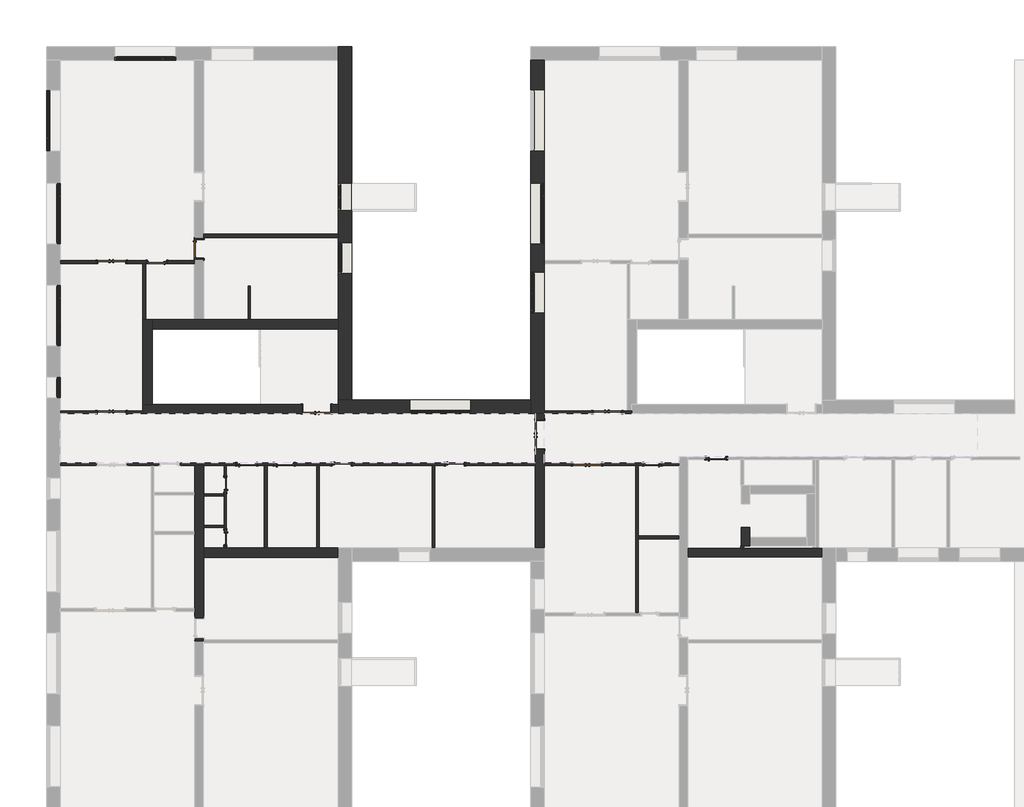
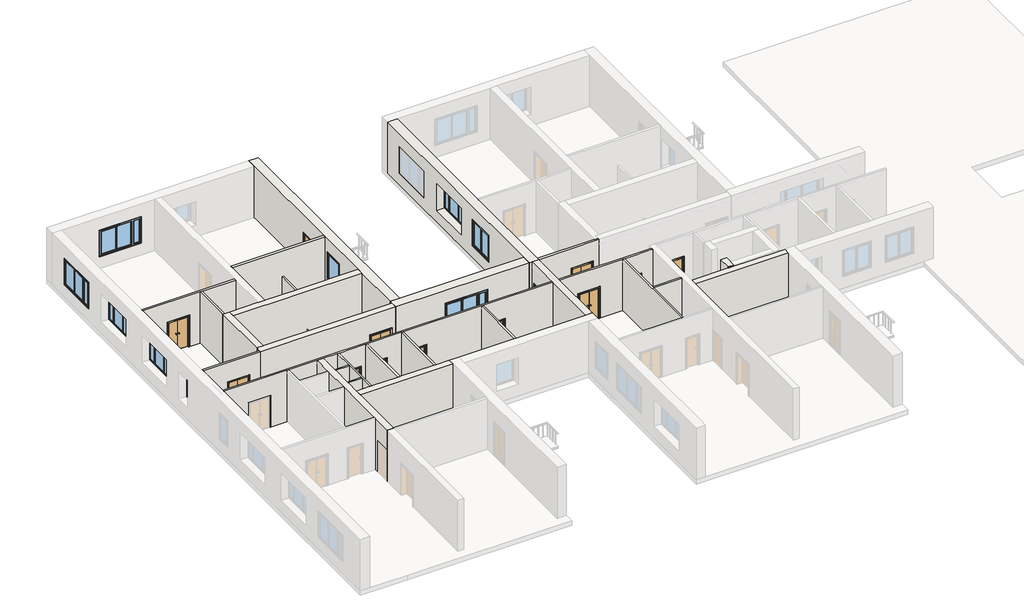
# One storey, part 2 of 4: 28 walls, 17 doors, 9 windows.
"""IFC4 building model written with IfcOpenShell, lengths in millimetres."""

from ifc_helpers import new_model, si_unit, frame, origin, place, context, project, spatial, polyline, outline, extrude, faceted_brep, transform, mapped, element, save
from components import door_6cda5d05, door_dd7598a4, door_4404b6de, door_87bbec6c, door_68770bee, door_6515f566, door_d1ce50e7, door_276684d3, door_3d735259, door_428ffb38, window_17d24cb2, window_825c4489, window_d8f3b313, window_630a9bb4

model = new_model("IFC4")

# Units and contexts
model_context = context("Model", 3, world=origin())
ifc_project = project(units=[si_unit("LENGTHUNIT", "METRE", prefix="MILLI")], contexts=[model_context])

# Site, building, storey
site = spatial("IfcSite", under=ifc_project)
building = spatial("IfcBuilding", under=site)
storey = spatial("IfcBuildingStorey", under=building, Name="2 этаж", Elevation=3500.0)

# Doors
placement = place(None, origin())
door_shape = door_6cda5d05(model_context)
element("IfcDoor", 1, ObjectType="Наружная дверь 2-Навесная - Один проем наружу с порогом - 31173-2003 : ДСН ДКН М2 2100-1300 ГОСТ 31173-2003", at=placement, inside=storey, context=model_context, shape_type="MappedRepresentation", body=[
    mapped(door_shape, transform((-35532.7240021, 6287.1370105, 3500.0), x_axis=(-1.0, 0.0, 0.0), y_axis=(0.0, -1.0, 0.0), z_axis=(0.0, 0.0, 1.0))),
])
element("IfcDoor", 2, ObjectType="Наружная дверь 2-Навесная - Один проем наружу с порогом - 31173-2003 : ДСН ДКН М2 2100-1300 ГОСТ 31173-2003", at=placement, inside=storey, context=model_context, shape_type="MappedRepresentation", body=[
    mapped(door_shape, transform((-13382.3240021, 6287.1370105, 3500.0), x_axis=(-1.0, 0.0, 0.0), y_axis=(0.0, -1.0, 0.0), z_axis=(0.0, 0.0, 1.0))),
])
element("IfcDoor", 3, ObjectType="Наружная дверь 2-Навесная - Один проем наружу с порогом - 31173-2003 : ДСН ДКН М2 2100-1300 ГОСТ 31173-2003", at=placement, inside=storey, context=model_context, shape_type="MappedRepresentation", body=[
    mapped(door_shape, transform((-14282.3240021, 3962.1370105, 3500.0), x_axis=(1.0, 0.0, 0.0), y_axis=(0.0, 1.0, 0.0), z_axis=(0.0, 0.0, 1.0))),
])
element("IfcDoor", 4, ObjectType="Наружная дверь 2-Навесная - Один проем наружу с порогом - 31173-2003 : ДСН ДКН М2 2100-1300 ГОСТ 31173-2003", at=placement, inside=storey, context=model_context, shape_type="MappedRepresentation", body=[
    mapped(door_shape, transform((-35529.8240021, 13007.1370105, 3500.0), x_axis=(-1.0, 0.0, 0.0), y_axis=(0.0, -1.0, 0.0), z_axis=(0.0, 0.0, 1.0))),
])
door_2_shape = door_dd7598a4(model_context)
element("IfcDoor", 5, ObjectType="Наружная дверь 2-Навесная - Один проем наружу с порогом - 31173-2003 : ДСН ДКН М2 2100-1300 ГОСТ 31173-2003", at=placement, inside=storey, context=model_context, shape_type="MappedRepresentation", body=[
    mapped(door_2_shape, transform((-26367.3240021, 6434.6370105, 3500.0), x_axis=(1.0, 0.0, 0.0), y_axis=(0.0, 1.0, 0.0), z_axis=(0.0, 0.0, 1.0))),
])
element("IfcDoor", 6, ObjectType="Наружная дверь 2-Навесная - Один проем наружу с порогом - 31173-2003 : ДСН ДКН М2 2100-1300 ГОСТ 31173-2003", at=placement, inside=storey, context=model_context, shape_type="MappedRepresentation", body=[
    mapped(door_2_shape, transform((-16402.3240021, 5284.6370105, 3500.0), x_axis=(0.0, -1.0, 0.0), y_axis=(1.0, 0.0, 0.0), z_axis=(0.0, 0.0, 1.0))),
])
door_3_shape = door_4404b6de(model_context)
element("IfcDoor", 7, ObjectType="Внутренняя дверь 1-Навесная - 6629-88 : ДГ 21-7  ГОСТ 6629-88", at=placement, inside=storey, context=model_context, shape_type="MappedRepresentation", body=[
    mapped(door_3_shape, transform((-30452.3240021, 674.6370105, 3500.0), x_axis=(0.0, -1.0, 0.0), y_axis=(1.0, 0.0, 0.0), z_axis=(0.0, 0.0, 1.0))),
])
door_4_shape = door_87bbec6c(model_context)
element("IfcDoor", 8, ObjectType="Внутренняя дверь 1-Навесная - 6629-88 : ДГ 21-7  ГОСТ 6629-88", at=placement, inside=storey, context=model_context, shape_type="MappedRepresentation", body=[
    mapped(door_4_shape, transform((-30452.3240021, 3054.6370105, 3500.0), x_axis=(0.0, 1.0, 0.0), y_axis=(-1.0, 0.0, 0.0), z_axis=(0.0, 0.0, 1.0))),
])
door_5_shape = door_68770bee(model_context)
element("IfcDoor", 9, ObjectType="Внутренняя дверь 1-Навесная - 6629-88 : ДГ 21-8  ГОСТ 6629-88", at=placement, inside=storey, context=model_context, shape_type="MappedRepresentation", body=[
    mapped(door_5_shape, transform((-11354.8240021, 3962.1370105, 3500.0), x_axis=(-1.0, 0.0, 0.0), y_axis=(0.0, -1.0, 0.0), z_axis=(0.0, 0.0, 1.0))),
])
door_6_shape = door_6515f566(model_context)
element("IfcDoor", 10, ObjectType="Внутренняя дверь 1-Навесная - 6629-88 : ДГ 21-9Л  ГОСТ 6629-88", at=placement, inside=storey, context=model_context, shape_type="MappedRepresentation", body=[
    mapped(door_6_shape, transform((-8511.8240021, 4232.1370105, 3500.0), x_axis=(-1.0, 0.0, 0.0), y_axis=(0.0, -1.0, 0.0), z_axis=(0.0, 0.0, 1.0))),
])
element("IfcDoor", 11, ObjectType="Внутренняя дверь 1-Навесная - 6629-88 : ДГ 21-9Л  ГОСТ 6629-88", at=placement, inside=storey, context=model_context, shape_type="MappedRepresentation", body=[
    mapped(door_6_shape, transform((-27819.8240021, 3962.1370105, 3500.0), x_axis=(-1.0, 0.0, 0.0), y_axis=(0.0, -1.0, 0.0), z_axis=(0.0, 0.0, 1.0))),
])
element("IfcDoor", 12, ObjectType="Внутренняя дверь 1-Навесная - 6629-88 : ДГ 21-9Л  ГОСТ 6629-88", at=placement, inside=storey, context=model_context, shape_type="MappedRepresentation", body=[
    mapped(door_6_shape, transform((-29499.8240021, 3962.1370105, 3500.0), x_axis=(-1.0, 0.0, 0.0), y_axis=(0.0, -1.0, 0.0), z_axis=(0.0, 0.0, 1.0))),
])
door_7_shape = door_d1ce50e7(model_context)
element("IfcDoor", 13, ObjectType="Внутренняя дверь 1-Навесная - 6629-88 : ДГ 21-9Л  ГОСТ 6629-88", at=placement, inside=storey, context=model_context, shape_type="MappedRepresentation", body=[
    mapped(door_7_shape, transform((-20189.8240021, 3962.1370105, 3500.0), x_axis=(-1.0, 0.0, 0.0), y_axis=(0.0, -1.0, 0.0), z_axis=(0.0, 0.0, 1.0))),
])
element("IfcDoor", 14, ObjectType="Внутренняя дверь 1-Навесная - 6629-88 : ДГ 21-9Л  ГОСТ 6629-88", at=placement, inside=storey, context=model_context, shape_type="MappedRepresentation", body=[
    mapped(door_7_shape, transform((-25254.8240021, 3962.1370105, 3500.0), x_axis=(-1.0, 0.0, 0.0), y_axis=(0.0, -1.0, 0.0), z_axis=(0.0, 0.0, 1.0))),
])
door_8_shape = door_276684d3(model_context)
element("IfcDoor", 15, ObjectType="Внутренняя дверь 1-Навесная - 6629-88 : ДГ 21-9  ГОСТ 6629-88", at=placement, inside=storey, context=model_context, shape_type="MappedRepresentation", body=[
    mapped(door_8_shape, transform((-33509.8240021, 13007.1370105, 3500.0), x_axis=(-1.0, 0.0, 0.0), y_axis=(0.0, -1.0, 0.0), z_axis=(0.0, 0.0, 1.0))),
])
door_9_shape = door_3d735259(model_context)
element("IfcDoor", 16, ObjectType="Внутренняя дверь 1-Навесная - 6629-88 : ДГ 21-9  ГОСТ 6629-88", at=placement, inside=storey, context=model_context, shape_type="MappedRepresentation", body=[
    mapped(door_9_shape, transform((-31622.3240021, 13592.1370105, 3500.0), x_axis=(0.0, -1.0, 0.0), y_axis=(1.0, 0.0, 0.0), z_axis=(0.0, 0.0, 1.0))),
])
door_10_shape = door_428ffb38(model_context)
element("IfcDoor", 17, ObjectType="Балконная дверь 2-Распашная - Сдвоенные переплеты с остеклением - 11214-2003 : БД СП Д1 2175-1174-94 ГОСТ 11214-2003", at=placement, inside=storey, context=model_context, shape_type="MappedRepresentation", body=[
    mapped(door_10_shape, transform((-25107.3240021, 15917.1370105, 3500.0), x_axis=(0.0, 1.0, 0.0), y_axis=(-1.0, 0.0, 0.0), z_axis=(0.0, 0.0, 1.0))),
])

# Walls
element("IfcWall", 18, ObjectType="ADSK_Внутренняя_Кирпич_610", at=placement, inside=storey, context=model_context, shape_type="Brep", body=[
    faceted_brep([(-24802.3240021, 6834.6370105, 3500.0), (-24802.3240021, 22644.6370105, 3500.0), (-24802.3240021, 22644.6370105, 7000.0), (-24802.3240021, 6834.6370105, 7000.0), (-24802.3240021, 12497.1370105, 4300.0), (-24802.3240021, 12497.1370105, 6120.0), (-24802.3240021, 13877.1370105, 6120.0), (-24802.3240021, 13877.1370105, 4300.0), (-24802.3240021, 15300.1370105, 3600.0), (-24802.3240021, 15300.1370105, 5835.0), (-24802.3240021, 16534.1370105, 5835.0), (-24802.3240021, 16534.1370105, 3600.0), (-25412.3240021, 6834.6370105, 3500.0), (-25412.3240021, 6834.6370105, 7000.0), (-25412.3240021, 10004.6370105, 7000.0), (-25412.3240021, 10424.6370105, 7000.0), (-25412.3240021, 14104.6370105, 7000.0), (-25412.3240021, 14249.6370105, 7000.0), (-25412.3240021, 22034.6370105, 7000.0), (-25412.3240021, 22644.6370105, 7000.0), (-25412.3240021, 22644.6370105, 3500.0), (-25412.3240021, 22034.6370105, 3500.0), (-25412.3240021, 14249.6370105, 3500.0), (-25412.3240021, 14104.6370105, 3500.0), (-25412.3240021, 10424.6370105, 3500.0), (-25412.3240021, 10004.6370105, 3500.0), (-25412.3240021, 12497.1370105, 4300.0), (-25412.3240021, 13877.1370105, 4300.0), (-25412.3240021, 13877.1370105, 6120.0), (-25412.3240021, 12497.1370105, 6120.0), (-25412.3240021, 15300.1370105, 3600.0), (-25412.3240021, 16534.1370105, 3600.0), (-25412.3240021, 16534.1370105, 5835.0), (-25412.3240021, 15300.1370105, 5835.0)], [[[0, 1, 2, 3], [4, 5, 6, 7], [8, 9, 10, 11]], [[12, 13, 14, 15, 16, 17, 18, 19, 20, 21, 22, 23, 24, 25], [26, 27, 28, 29], [30, 31, 32, 33]], [[1, 0, 12, 25, 24, 23, 22, 21, 20]], [[2, 1, 20, 19]], [[0, 3, 13, 12]], [[5, 4, 26, 29]], [[6, 5, 29, 28]], [[7, 6, 28, 27]], [[4, 7, 27, 26]], [[9, 8, 30, 33]], [[10, 9, 33, 32]], [[11, 10, 32, 31]], [[8, 11, 31, 30]], [[3, 2, 19, 18, 17, 16, 15, 14, 13]]]),
])
element("IfcWall", 19, ObjectType="ADSK_Внутренняя_Кирпич_610", at=placement, inside=storey, context=model_context, shape_type="Brep", body=[
    faceted_brep([(-16802.3240021, 22034.6370105, 3500.0), (-16802.3240021, 6834.6370105, 3500.0), (-16802.3240021, 6224.6370105, 3500.0), (-16802.3240021, 6224.6370105, 7000.0), (-16802.3240021, 6834.6370105, 7000.0), (-16802.3240021, 22034.6370105, 7000.0), (-16802.3240021, 16537.1370105, 4300.0), (-16802.3240021, 16537.1370105, 6120.0), (-16802.3240021, 13807.1370105, 6120.0), (-16802.3240021, 13807.1370105, 4300.0), (-16802.3240021, 17974.6370105, 4300.0), (-16802.3240021, 20704.6370105, 4300.0), (-16802.3240021, 20704.6370105, 6120.0), (-16802.3240021, 17974.6370105, 6120.0), (-16802.3240021, 10727.1370105, 4300.0), (-16802.3240021, 12557.1370105, 4300.0), (-16802.3240021, 12557.1370105, 6120.0), (-16802.3240021, 10727.1370105, 6120.0), (-16192.3240021, 22034.6370105, 3500.0), (-16192.3240021, 22034.6370105, 7000.0), (-16192.3240021, 13069.6370105, 7000.0), (-16192.3240021, 12944.6370105, 7000.0), (-16192.3240021, 6349.6370105, 7000.0), (-16192.3240021, 6224.6370105, 7000.0), (-16192.3240021, 6224.6370105, 3500.0), (-16192.3240021, 6349.6370105, 3500.0), (-16192.3240021, 12944.6370105, 3500.0), (-16192.3240021, 13069.6370105, 3500.0), (-16192.3240021, 16537.1370105, 4300.0), (-16192.3240021, 13807.1370105, 4300.0), (-16192.3240021, 13807.1370105, 6120.0), (-16192.3240021, 16537.1370105, 6120.0), (-16192.3240021, 17974.6370105, 4300.0), (-16192.3240021, 17974.6370105, 6120.0), (-16192.3240021, 20704.6370105, 6120.0), (-16192.3240021, 20704.6370105, 4300.0), (-16192.3240021, 10727.1370105, 4300.0), (-16192.3240021, 10727.1370105, 6120.0), (-16192.3240021, 12557.1370105, 6120.0), (-16192.3240021, 12557.1370105, 4300.0), (-16612.3240021, 6224.6370105, 3500.0), (-16612.3240021, 6224.6370105, 7000.0)], [[[0, 1, 2, 3, 4, 5], [6, 7, 8, 9], [10, 11, 12, 13], [14, 15, 16, 17]], [[18, 19, 20, 21, 22, 23, 24, 25, 26, 27], [28, 29, 30, 31], [32, 33, 34, 35], [36, 37, 38, 39]], [[2, 1, 0, 18, 27, 26, 25, 24, 40]], [[0, 5, 19, 18]], [[3, 2, 40, 24, 23, 41]], [[7, 6, 28, 31]], [[8, 7, 31, 30]], [[9, 8, 30, 29]], [[6, 9, 29, 28]], [[33, 32, 10, 13]], [[34, 33, 13, 12]], [[35, 34, 12, 11]], [[32, 35, 11, 10]], [[37, 36, 14, 17]], [[38, 37, 17, 16]], [[39, 38, 16, 15]], [[36, 39, 15, 14]], [[5, 4, 3, 41, 23, 22, 21, 20, 19]]]),
])
element("IfcWall", 20, ObjectType="ADSK_Внутренняя_Кирпич_610", at=placement, inside=storey, context=model_context, shape_type="Brep", body=[
    faceted_brep([(-16802.3240021, 6834.6370105, 3500.0), (-24802.3240021, 6834.6370105, 3500.0), (-25412.3240021, 6834.6370105, 3500.0), (-25412.3240021, 6834.6370105, 7000.0), (-24802.3240021, 6834.6370105, 7000.0), (-16802.3240021, 6834.6370105, 7000.0), (-19482.3240021, 6834.6370105, 4300.0), (-19482.3240021, 6834.6370105, 6120.0), (-22212.3240021, 6834.6370105, 6120.0), (-22212.3240021, 6834.6370105, 4300.0), (-16802.3240021, 6224.6370105, 3500.0), (-16802.3240021, 6224.6370105, 7000.0), (-25412.3240021, 6224.6370105, 7000.0), (-25412.3240021, 6224.6370105, 3500.0), (-19482.3240021, 6224.6370105, 4300.0), (-22212.3240021, 6224.6370105, 4300.0), (-22212.3240021, 6224.6370105, 6120.0), (-19482.3240021, 6224.6370105, 6120.0), (-25412.3240021, 6644.6370105, 3500.0), (-25412.3240021, 6644.6370105, 7000.0)], [[[0, 1, 2, 3, 4, 5], [6, 7, 8, 9]], [[10, 11, 12, 13], [14, 15, 16, 17]], [[2, 1, 0, 10, 13, 18]], [[0, 5, 11, 10]], [[3, 2, 18, 13, 12, 19]], [[7, 6, 14, 17]], [[8, 7, 17, 16]], [[9, 8, 16, 15]], [[6, 9, 15, 14]], [[5, 4, 3, 19, 12, 11]]]),
])
element("IfcWall", 21, ObjectType="ADSK_Внутренняя_Перегородка_25_75_25", at=placement, inside=storey, context=model_context, shape_type="Brep", body=[
    faceted_brep([(-37832.3240021, 4024.6370105, 3500.0), (-37832.3240021, 4024.6370105, 7000.0), (-16612.3240021, 4024.6370105, 7000.0), (-16612.3240021, 4024.6370105, 3500.0), (-19734.8240021, 4024.6370105, 3500.0), (-19734.8240021, 4024.6370105, 5570.0), (-20644.8240021, 4024.6370105, 5570.0), (-20644.8240021, 4024.6370105, 3500.0), (-24799.8240021, 4024.6370105, 3500.0), (-24799.8240021, 4024.6370105, 5570.0), (-25709.8240021, 4024.6370105, 5570.0), (-25709.8240021, 4024.6370105, 3500.0), (-27364.8240021, 4024.6370105, 3500.0), (-27364.8240021, 4024.6370105, 5570.0), (-28274.8240021, 4024.6370105, 5570.0), (-28274.8240021, 4024.6370105, 3500.0), (-29044.8240021, 4024.6370105, 3500.0), (-29044.8240021, 4024.6370105, 5570.0), (-29954.8240021, 4024.6370105, 5570.0), (-29954.8240021, 4024.6370105, 3500.0), (-32489.8240021, 4024.6370105, 3500.0), (-32489.8240021, 4024.6370105, 5570.0), (-33399.8240021, 4024.6370105, 5570.0), (-33399.8240021, 4024.6370105, 3500.0), (-34854.8240021, 4024.6370105, 3500.0), (-34854.8240021, 4024.6370105, 5620.0), (-36194.8240021, 4024.6370105, 5620.0), (-36194.8240021, 4024.6370105, 3500.0), (-37832.3240021, 3899.6370105, 7000.0), (-37832.3240021, 3899.6370105, 3500.0), (-36194.8240021, 3899.6370105, 3500.0), (-36194.8240021, 3899.6370105, 5620.0), (-34854.8240021, 3899.6370105, 5620.0), (-34854.8240021, 3899.6370105, 3500.0), (-33767.3240021, 3899.6370105, 3500.0), (-33642.3240021, 3899.6370105, 3500.0), (-33399.8240021, 3899.6370105, 3500.0), (-33399.8240021, 3899.6370105, 5570.0), (-32489.8240021, 3899.6370105, 5570.0), (-32489.8240021, 3899.6370105, 3500.0), (-31812.3240021, 3899.6370105, 3500.0), (-31412.3240021, 3899.6370105, 3500.0), (-30502.3240021, 3899.6370105, 3500.0), (-30402.3240021, 3899.6370105, 3500.0), (-29954.8240021, 3899.6370105, 3500.0), (-29954.8240021, 3899.6370105, 5570.0), (-29044.8240021, 3899.6370105, 5570.0), (-29044.8240021, 3899.6370105, 3500.0), (-28702.3240021, 3899.6370105, 3500.0), (-28577.3240021, 3899.6370105, 3500.0), (-28274.8240021, 3899.6370105, 3500.0), (-28274.8240021, 3899.6370105, 5570.0), (-27364.8240021, 3899.6370105, 5570.0), (-27364.8240021, 3899.6370105, 3500.0), (-26377.3240021, 3899.6370105, 3500.0), (-26252.3240021, 3899.6370105, 3500.0), (-25709.8240021, 3899.6370105, 3500.0), (-25709.8240021, 3899.6370105, 5570.0), (-24799.8240021, 3899.6370105, 5570.0), (-24799.8240021, 3899.6370105, 3500.0), (-21212.3240021, 3899.6370105, 3500.0), (-21087.3240021, 3899.6370105, 3500.0), (-20644.8240021, 3899.6370105, 3500.0), (-20644.8240021, 3899.6370105, 5570.0), (-19734.8240021, 3899.6370105, 5570.0), (-19734.8240021, 3899.6370105, 3500.0), (-16612.3240021, 3899.6370105, 3500.0), (-16612.3240021, 3899.6370105, 7000.0), (-21087.3240021, 3899.6370105, 7000.0), (-21212.3240021, 3899.6370105, 7000.0), (-26252.3240021, 3899.6370105, 7000.0), (-26377.3240021, 3899.6370105, 7000.0), (-28577.3240021, 3899.6370105, 7000.0), (-28702.3240021, 3899.6370105, 7000.0), (-30402.3240021, 3899.6370105, 7000.0), (-30502.3240021, 3899.6370105, 7000.0), (-31412.3240021, 3899.6370105, 7000.0), (-31812.3240021, 3899.6370105, 7000.0), (-33642.3240021, 3899.6370105, 7000.0), (-33767.3240021, 3899.6370105, 7000.0)], [[[0, 1, 2, 3, 4, 5, 6, 7, 8, 9, 10, 11, 12, 13, 14, 15, 16, 17, 18, 19, 20, 21, 22, 23, 24, 25, 26, 27]], [[28, 29, 30, 31, 32, 33, 34, 35, 36, 37, 38, 39, 40, 41, 42, 43, 44, 45, 46, 47, 48, 49, 50, 51, 52, 53, 54, 55, 56, 57, 58, 59, 60, 61, 62, 63, 64, 65, 66, 67, 68, 69, 70, 71, 72, 73, 74, 75, 76, 77, 78, 79]], [[29, 0, 27, 30]], [[3, 66, 65, 4]], [[7, 62, 61, 60, 59, 8]], [[11, 56, 55, 54, 53, 12]], [[15, 50, 49, 48, 47, 16]], [[19, 44, 43, 42, 41, 40, 39, 20]], [[23, 36, 35, 34, 33, 24]], [[1, 0, 29, 28]], [[3, 2, 67, 66]], [[6, 63, 62, 7]], [[63, 6, 5, 64]], [[64, 5, 4, 65]], [[10, 57, 56, 11]], [[57, 10, 9, 58]], [[58, 9, 8, 59]], [[14, 51, 50, 15]], [[51, 14, 13, 52]], [[52, 13, 12, 53]], [[18, 45, 44, 19]], [[45, 18, 17, 46]], [[46, 17, 16, 47]], [[38, 21, 20, 39]], [[21, 38, 37, 22]], [[22, 37, 36, 23]], [[32, 25, 24, 33]], [[25, 32, 31, 26]], [[26, 31, 30, 27]], [[2, 1, 28, 79, 78, 77, 76, 75, 74, 73, 72, 71, 70, 69, 68, 67]]]),
])
element("IfcWall", 22, ObjectType="ADSK_Внутренняя_Кирпич_380+20", at=placement, inside=storey, context=model_context, shape_type="Brep", body=[
    faceted_brep([(-31812.3240021, -3952.8629895, 3500.0), (-31812.3240021, -3952.8629895, 7000.0), (-31812.3240021, -2605.3629895, 7000.0), (-31812.3240021, -2480.3629895, 7000.0), (-31812.3240021, 824.6370105, 7000.0), (-31812.3240021, 949.6370105, 7000.0), (-31812.3240021, 2594.6370105, 7000.0), (-31812.3240021, 2694.6370105, 7000.0), (-31812.3240021, 3899.6370105, 7000.0), (-31812.3240021, 3899.6370105, 3500.0), (-31812.3240021, 2694.6370105, 3500.0), (-31812.3240021, 2594.6370105, 3500.0), (-31812.3240021, 949.6370105, 3500.0), (-31812.3240021, 824.6370105, 3500.0), (-31812.3240021, -2480.3629895, 3500.0), (-31812.3240021, -2605.3629895, 3500.0), (-31812.3240021, -2917.8629895, 3500.0), (-31812.3240021, -2917.8629895, 5570.0), (-31812.3240021, -3827.8629895, 5570.0), (-31812.3240021, -3827.8629895, 3500.0), (-31412.3240021, -3952.8629895, 7000.0), (-31412.3240021, -3952.8629895, 3500.0), (-31412.3240021, -3880.3629895, 3500.0), (-31412.3240021, -3827.8629895, 3500.0), (-31412.3240021, -3827.8629895, 5570.0), (-31412.3240021, -2917.8629895, 5570.0), (-31412.3240021, -2917.8629895, 3500.0), (-31412.3240021, -195.3629895, 3500.0), (-31412.3240021, 224.6370105, 3500.0), (-31412.3240021, 1134.6370105, 3500.0), (-31412.3240021, 1234.6370105, 3500.0), (-31412.3240021, 2544.6370105, 3500.0), (-31412.3240021, 2644.6370105, 3500.0), (-31412.3240021, 3899.6370105, 3500.0), (-31412.3240021, 3899.6370105, 7000.0), (-31412.3240021, 2644.6370105, 7000.0), (-31412.3240021, 2544.6370105, 7000.0), (-31412.3240021, 1234.6370105, 7000.0), (-31412.3240021, 1134.6370105, 7000.0), (-31412.3240021, 224.6370105, 7000.0), (-31412.3240021, -195.3629895, 7000.0), (-31412.3240021, -3880.3629895, 7000.0), (-31432.3240021, -3952.8629895, 3500.0), (-31432.3240021, -3952.8629895, 7000.0)], [[[0, 1, 2, 3, 4, 5, 6, 7, 8, 9, 10, 11, 12, 13, 14, 15, 16, 17, 18, 19]], [[20, 21, 22, 23, 24, 25, 26, 27, 28, 29, 30, 31, 32, 33, 34, 35, 36, 37, 38, 39, 40, 41]], [[21, 42, 0, 19, 23, 22]], [[9, 33, 32, 31, 30, 29, 28, 27, 26, 16, 15, 14, 13, 12, 11, 10]], [[1, 0, 42, 21, 20, 43]], [[9, 8, 34, 33]], [[25, 17, 16, 26]], [[17, 25, 24, 18]], [[18, 24, 23, 19]], [[8, 7, 6, 5, 4, 3, 2, 1, 43, 20, 41, 40, 39, 38, 37, 36, 35, 34]]]),
])
element("IfcWall", 23, ObjectType="ADSK_Внутренняя_Кирпич_380+20х2", at=placement, inside=storey, context=model_context, shape_type="Brep", body=[
    faceted_brep([(-31412.3240021, -195.3629895, 3500.0), (-25412.3240021, -195.3629895, 3500.0), (-25412.3240021, -195.3629895, 7000.0), (-31412.3240021, -195.3629895, 7000.0), (-31412.3240021, 224.6370105, 3500.0), (-31412.3240021, 224.6370105, 7000.0), (-30502.3240021, 224.6370105, 7000.0), (-30402.3240021, 224.6370105, 7000.0), (-28702.3240021, 224.6370105, 7000.0), (-28577.3240021, 224.6370105, 7000.0), (-26377.3240021, 224.6370105, 7000.0), (-26252.3240021, 224.6370105, 7000.0), (-25412.3240021, 224.6370105, 7000.0), (-25412.3240021, 224.6370105, 3500.0), (-26252.3240021, 224.6370105, 3500.0), (-26377.3240021, 224.6370105, 3500.0), (-28577.3240021, 224.6370105, 3500.0), (-28702.3240021, 224.6370105, 3500.0), (-30402.3240021, 224.6370105, 3500.0), (-30502.3240021, 224.6370105, 3500.0)], [[[0, 1, 2, 3]], [[4, 5, 6, 7, 8, 9, 10, 11, 12, 13, 14, 15, 16, 17, 18, 19]], [[1, 0, 4, 19, 18, 17, 16, 15, 14, 13]], [[2, 1, 13, 12]], [[0, 3, 5, 4]], [[3, 2, 12, 11, 10, 9, 8, 7, 6, 5]]]),
])
element("IfcWall", 24, ObjectType="ADSK_Внутренняя_Перегородка_25_75_25", at=placement, inside=storey, context=model_context, shape_type="SweptSolid", body=[
    extrude(outline(polyline([(-28577.3240021, 3899.6370105), (-28577.3240021, 224.6370105), (-28702.3240021, 224.6370105), (-28702.3240021, 3899.6370105), (-28577.3240021, 3899.6370105)])), frame((0.0, 0.0, 3500.0), z_axis=(0.0, 0.0, 1.0), x_axis=(1.0, 0.0, 0.0)), (0.0, 0.0, 1.0), 3500.0),
])
element("IfcWall", 25, ObjectType="ADSK_Внутренняя_Перегородка_25_75_25", at=placement, inside=storey, context=model_context, shape_type="SweptSolid", body=[
    extrude(outline(polyline([(-26377.3240021, 224.6370105), (-26377.3240021, 3899.6370105), (-26252.3240021, 3899.6370105), (-26252.3240021, 224.6370105), (-26377.3240021, 224.6370105)])), frame((0.0, 0.0, 3500.0), z_axis=(0.0, 0.0, 1.0), x_axis=(1.0, 0.0, 0.0)), (0.0, 0.0, 1.0), 3500.0),
])
element("IfcWall", 26, ObjectType="ADSK_Внутренняя_Перегородка_25_75_25", at=placement, inside=storey, context=model_context, shape_type="SweptSolid", body=[
    extrude(outline(polyline([(-21212.3240021, 224.6370105), (-21212.3240021, 3899.6370105), (-21087.3240021, 3899.6370105), (-21087.3240021, 224.6370105), (-21212.3240021, 224.6370105)])), frame((0.0, 0.0, 3500.0), z_axis=(0.0, 0.0, 1.0), x_axis=(1.0, 0.0, 0.0)), (0.0, 0.0, 1.0), 3500.0),
])
element("IfcWall", 27, ObjectType="ADSK_Внутренняя_Кирпич_380+20х2", at=placement, inside=storey, context=model_context, shape_type="Brep", body=[
    faceted_brep([(-16612.3240021, 224.6370105, 3500.0), (-16612.3240021, 224.6370105, 7000.0), (-16612.3240021, 3899.6370105, 7000.0), (-16612.3240021, 4024.6370105, 7000.0), (-16612.3240021, 6224.6370105, 7000.0), (-16612.3240021, 6224.6370105, 3500.0), (-16612.3240021, 5954.6370105, 3500.0), (-16612.3240021, 5954.6370105, 5620.0), (-16612.3240021, 4614.6370105, 5620.0), (-16612.3240021, 4614.6370105, 3500.0), (-16612.3240021, 4024.6370105, 3500.0), (-16612.3240021, 3899.6370105, 3500.0), (-16192.3240021, 224.6370105, 7000.0), (-16192.3240021, 224.6370105, 3500.0), (-16192.3240021, 3899.6370105, 3500.0), (-16192.3240021, 4024.6370105, 3500.0), (-16192.3240021, 4614.6370105, 3500.0), (-16192.3240021, 4614.6370105, 5620.0), (-16192.3240021, 5954.6370105, 5620.0), (-16192.3240021, 5954.6370105, 3500.0), (-16192.3240021, 6224.6370105, 3500.0), (-16192.3240021, 6224.6370105, 7000.0), (-16192.3240021, 4024.6370105, 7000.0), (-16192.3240021, 3899.6370105, 7000.0)], [[[0, 1, 2, 3, 4, 5, 6, 7, 8, 9, 10, 11]], [[12, 13, 14, 15, 16, 17, 18, 19, 20, 21, 22, 23]], [[13, 0, 11, 10, 9, 16, 15, 14]], [[5, 20, 19, 6]], [[1, 0, 13, 12]], [[5, 4, 21, 20]], [[8, 17, 16, 9]], [[17, 8, 7, 18]], [[18, 7, 6, 19]], [[4, 3, 2, 1, 12, 23, 22, 21]]]),
])
element("IfcWall", 28, ObjectType="ADSK_Внутренняя_Перегородка_25_75_25", at=placement, inside=storey, context=model_context, shape_type="Brep", body=[
    faceted_brep([(-12282.3240021, 6224.6370105, 3500.0), (-12282.3240021, 6224.6370105, 7000.0), (-16192.3240021, 6224.6370105, 7000.0), (-16192.3240021, 6224.6370105, 3500.0), (-14052.3240021, 6224.6370105, 3500.0), (-14052.3240021, 6224.6370105, 5620.0), (-12712.3240021, 6224.6370105, 5620.0), (-12712.3240021, 6224.6370105, 3500.0), (-12282.3240021, 6349.6370105, 7000.0), (-12282.3240021, 6349.6370105, 3500.0), (-12492.3240021, 6349.6370105, 3500.0), (-12712.3240021, 6349.6370105, 3500.0), (-12712.3240021, 6349.6370105, 5620.0), (-14052.3240021, 6349.6370105, 5620.0), (-14052.3240021, 6349.6370105, 3500.0), (-16192.3240021, 6349.6370105, 3500.0), (-16192.3240021, 6349.6370105, 7000.0), (-12492.3240021, 6349.6370105, 7000.0)], [[[0, 1, 2, 3, 4, 5, 6, 7]], [[8, 9, 10, 11, 12, 13, 14, 15, 16, 17]], [[3, 15, 14, 4]], [[9, 0, 7, 11, 10]], [[1, 0, 9, 8]], [[3, 2, 16, 15]], [[13, 5, 4, 14]], [[5, 13, 12, 6]], [[6, 12, 11, 7]], [[2, 1, 8, 17, 16]]]),
])
element("IfcWall", 29, ObjectType="ADSK_Внутренняя_Перегородка_25_75_25", at=placement, inside=storey, context=model_context, shape_type="Brep", body=[
    faceted_brep([(-16192.3240021, 3899.6370105, 7000.0), (-16192.3240021, 3899.6370105, 3500.0), (-14952.3240021, 3899.6370105, 3500.0), (-14952.3240021, 3899.6370105, 5620.0), (-13612.3240021, 3899.6370105, 5620.0), (-13612.3240021, 3899.6370105, 3500.0), (-12117.3240021, 3899.6370105, 3500.0), (-11992.3240021, 3899.6370105, 3500.0), (-11759.8240021, 3899.6370105, 3500.0), (-11759.8240021, 3899.6370105, 5570.0), (-10949.8240021, 3899.6370105, 5570.0), (-10949.8240021, 3899.6370105, 3500.0), (-10172.3240021, 3899.6370105, 3500.0), (-10172.3240021, 3899.6370105, 7000.0), (-11992.3240021, 3899.6370105, 7000.0), (-12117.3240021, 3899.6370105, 7000.0), (-16192.3240021, 4024.6370105, 3500.0), (-16192.3240021, 4024.6370105, 7000.0), (-10172.3240021, 4024.6370105, 7000.0), (-10172.3240021, 4024.6370105, 3500.0), (-10949.8240021, 4024.6370105, 3500.0), (-10949.8240021, 4024.6370105, 5570.0), (-11759.8240021, 4024.6370105, 5570.0), (-11759.8240021, 4024.6370105, 3500.0), (-13612.3240021, 4024.6370105, 3500.0), (-13612.3240021, 4024.6370105, 5620.0), (-14952.3240021, 4024.6370105, 5620.0), (-14952.3240021, 4024.6370105, 3500.0)], [[[0, 1, 2, 3, 4, 5, 6, 7, 8, 9, 10, 11, 12, 13, 14, 15]], [[16, 17, 18, 19, 20, 21, 22, 23, 24, 25, 26, 27]], [[1, 16, 27, 2]], [[12, 11, 20, 19]], [[23, 8, 7, 6, 5, 24]], [[1, 0, 17, 16]], [[22, 9, 8, 23]], [[9, 22, 21, 10]], [[10, 21, 20, 11]], [[4, 25, 24, 5]], [[25, 4, 3, 26]], [[26, 3, 2, 27]], [[13, 12, 19, 18]], [[0, 15, 14, 13, 18, 17]]]),
])
element("IfcWall", 30, ObjectType="ADSK_Внутренняя_Перегородка_25_75_25", at=placement, inside=storey, context=model_context, shape_type="Brep", body=[
    faceted_brep([(-12117.3240021, 3899.6370105, 3500.0), (-12117.3240021, -2680.3629895, 3500.0), (-12117.3240021, -2680.3629895, 7000.0), (-12117.3240021, 3899.6370105, 7000.0), (-11992.3240021, 3899.6370105, 3500.0), (-11992.3240021, 3899.6370105, 7000.0), (-11992.3240021, 749.6370105, 7000.0), (-11992.3240021, 624.6370105, 7000.0), (-11992.3240021, -2680.3629895, 7000.0), (-11992.3240021, -2680.3629895, 3500.0), (-11992.3240021, 624.6370105, 3500.0), (-11992.3240021, 749.6370105, 3500.0)], [[[0, 1, 2, 3]], [[4, 5, 6, 7, 8, 9, 10, 11]], [[1, 0, 4, 11, 10, 9]], [[0, 3, 5, 4]], [[2, 1, 9, 8]], [[3, 2, 8, 7, 6, 5]]]),
])
element("IfcWall", 31, ObjectType="ADSK_Внутренняя_Перегородка_25_75_25", at=placement, inside=storey, context=model_context, shape_type="SweptSolid", body=[
    extrude(outline(polyline([(-10172.3240021, 624.6370105), (-11992.3240021, 624.6370105), (-11992.3240021, 749.6370105), (-10172.3240021, 749.6370105), (-10172.3240021, 624.6370105)])), frame((0.0, 0.0, 3500.0), z_axis=(0.0, 0.0, 1.0), x_axis=(1.0, 0.0, 0.0)), (0.0, 0.0, 1.0), 3500.0),
])
element("IfcWall", 32, ObjectType="ADSK_Внутренняя_Перегородка_25_75_25", at=placement, inside=storey, context=model_context, shape_type="SweptSolid", body=[
    extrude(outline(polyline([(7000.0, -37832.3240021), (3500.0, -37832.3240021), (3500.0, -36202.7240021), (5620.0, -36202.7240021), (5620.0, -34862.7240021), (3500.0, -34862.7240021), (3500.0, -34132.7240021), (7000.0, -34132.7240021), (7000.0, -37832.3240021)])), frame((0.0, 6224.6370105, 0.0), z_axis=(0.0, 1.0, 0.0), x_axis=(0.0, 0.0, 1.0)), (0.0, 0.0, 1.0), 125.0),
])
element("IfcWall", 33, ObjectType="ADSK_Внутренняя_Перегородка_25_75_25", at=placement, inside=storey, context=model_context, shape_type="SweptSolid", body=[
    extrude(outline(polyline([(-34007.3240021, 12944.6370105), (-34007.3240021, 10424.6370105), (-34132.3240021, 10424.6370105), (-34132.3240021, 12944.6370105), (-34007.3240021, 12944.6370105)])), frame((0.0, 0.0, 3500.0), z_axis=(0.0, 0.0, 1.0), x_axis=(1.0, 0.0, 0.0)), (0.0, 0.0, 1.0), 3500.0),
])
element("IfcWall", 34, ObjectType="ADSK_Внутренняя_Перегородка_25_75_25", at=placement, inside=storey, context=model_context, shape_type="Brep", body=[
    faceted_brep([(-37832.3240021, 13069.6370105, 3500.0), (-37832.3240021, 13069.6370105, 7000.0), (-31832.3240021, 13069.6370105, 7000.0), (-31832.3240021, 13069.6370105, 3500.0), (-33054.8240021, 13069.6370105, 3500.0), (-33054.8240021, 13069.6370105, 5570.0), (-33964.8240021, 13069.6370105, 5570.0), (-33964.8240021, 13069.6370105, 3500.0), (-34859.8240021, 13069.6370105, 3500.0), (-34859.8240021, 13069.6370105, 5620.0), (-36199.8240021, 13069.6370105, 5620.0), (-36199.8240021, 13069.6370105, 3500.0), (-37832.3240021, 12944.6370105, 7000.0), (-37832.3240021, 12944.6370105, 3500.0), (-36199.8240021, 12944.6370105, 3500.0), (-36199.8240021, 12944.6370105, 5620.0), (-34859.8240021, 12944.6370105, 5620.0), (-34859.8240021, 12944.6370105, 3500.0), (-34132.3240021, 12944.6370105, 3500.0), (-34007.3240021, 12944.6370105, 3500.0), (-33964.8240021, 12944.6370105, 3500.0), (-33964.8240021, 12944.6370105, 5570.0), (-33054.8240021, 12944.6370105, 5570.0), (-33054.8240021, 12944.6370105, 3500.0), (-31832.3240021, 12944.6370105, 3500.0), (-31832.3240021, 12944.6370105, 7000.0), (-34007.3240021, 12944.6370105, 7000.0), (-34132.3240021, 12944.6370105, 7000.0)], [[[0, 1, 2, 3, 4, 5, 6, 7, 8, 9, 10, 11]], [[12, 13, 14, 15, 16, 17, 18, 19, 20, 21, 22, 23, 24, 25, 26, 27]], [[13, 0, 11, 14]], [[3, 24, 23, 4]], [[17, 8, 7, 20, 19, 18]], [[1, 0, 13, 12]], [[3, 2, 25, 24]], [[10, 15, 14, 11]], [[15, 10, 9, 16]], [[16, 9, 8, 17]], [[6, 21, 20, 7]], [[21, 6, 5, 22]], [[22, 5, 4, 23]], [[2, 1, 12, 27, 26, 25]]]),
])
element("IfcWall", 35, ObjectType="ADSK_Внутренняя_Кирпич_380+20х2", at=placement, inside=storey, context=model_context, shape_type="Brep", body=[
    faceted_brep([(-25412.3240021, 6224.6370105, 3500.0), (-25412.3240021, 6224.6370105, 7000.0), (-34132.7240021, 6224.6370105, 7000.0), (-34132.7240021, 6224.6370105, 3500.0), (-27037.3240021, 6224.6370105, 3500.0), (-27037.3240021, 6224.6370105, 5620.0), (-25697.3240021, 6224.6370105, 5620.0), (-25697.3240021, 6224.6370105, 3500.0), (-25412.3240021, 6644.6370105, 7000.0), (-25412.3240021, 6644.6370105, 3500.0), (-25697.3240021, 6644.6370105, 3500.0), (-25697.3240021, 6644.6370105, 5620.0), (-27037.3240021, 6644.6370105, 5620.0), (-27037.3240021, 6644.6370105, 3500.0), (-33712.7240021, 6644.6370105, 3500.0), (-34132.7240021, 6644.6370105, 3500.0), (-34132.7240021, 6644.6370105, 7000.0), (-33712.7240021, 6644.6370105, 7000.0), (-34132.7240021, 6349.6370105, 3500.0), (-34132.7240021, 6349.6370105, 7000.0)], [[[0, 1, 2, 3, 4, 5, 6, 7]], [[8, 9, 10, 11, 12, 13, 14, 15, 16, 17]], [[9, 0, 7, 10]], [[3, 18, 15, 14, 13, 4]], [[1, 0, 9, 8]], [[3, 2, 19, 16, 15, 18]], [[6, 11, 10, 7]], [[11, 6, 5, 12]], [[12, 5, 4, 13]], [[2, 1, 8, 17, 16, 19]]]),
])
element("IfcWall", 36, ObjectType="ADSK_Внутренняя_Кирпич_380+20х2", at=placement, inside=storey, context=model_context, shape_type="Brep", body=[
    faceted_brep([(-33712.7240021, 6644.6370105, 3500.0), (-33712.7240021, 10004.6370105, 3500.0), (-33712.7240021, 10424.6370105, 3500.0), (-33712.7240021, 10424.6370105, 7000.0), (-33712.7240021, 10004.6370105, 7000.0), (-33712.7240021, 6644.6370105, 7000.0), (-34132.7240021, 6644.6370105, 3500.0), (-34132.7240021, 6644.6370105, 7000.0), (-34132.7240021, 10424.6370105, 7000.0), (-34132.7240021, 10424.6370105, 3500.0), (-34132.3240021, 10424.6370105, 3500.0), (-34007.3240021, 10424.6370105, 3500.0), (-34132.3240021, 10424.6370105, 7000.0), (-34007.3240021, 10424.6370105, 7000.0)], [[[0, 1, 2, 3, 4, 5]], [[6, 7, 8, 9]], [[2, 1, 0, 6, 9, 10, 11]], [[0, 5, 7, 6]], [[3, 2, 11, 10, 9, 8, 12, 13]], [[5, 4, 3, 13, 12, 8, 7]]]),
])
element("IfcWall", 37, ObjectType="ADSK_Внутренняя_Кирпич_380+20х2", at=placement, inside=storey, context=model_context, shape_type="Brep", body=[
    faceted_brep([(-33712.7240021, 10004.6370105, 3500.0), (-25412.3240021, 10004.6370105, 3500.0), (-25412.3240021, 10004.6370105, 7000.0), (-33712.7240021, 10004.6370105, 7000.0), (-33712.7240021, 10424.6370105, 3500.0), (-33712.7240021, 10424.6370105, 7000.0), (-31832.3240021, 10424.6370105, 7000.0), (-31412.3240021, 10424.6370105, 7000.0), (-29430.3240021, 10424.6370105, 7000.0), (-29330.3240021, 10424.6370105, 7000.0), (-25412.3240021, 10424.6370105, 7000.0), (-25412.3240021, 10424.6370105, 3500.0), (-29330.3240021, 10424.6370105, 3500.0), (-29430.3240021, 10424.6370105, 3500.0), (-31412.3240021, 10424.6370105, 3500.0), (-31832.3240021, 10424.6370105, 3500.0)], [[[0, 1, 2, 3]], [[4, 5, 6, 7, 8, 9, 10, 11, 12, 13, 14, 15]], [[1, 0, 4, 15, 14, 13, 12, 11]], [[0, 3, 5, 4]], [[2, 1, 11, 10]], [[3, 2, 10, 9, 8, 7, 6, 5]]]),
])
element("IfcWall", 38, ObjectType="ADSK_Внутренняя_Перегородка_125+10х2", at=placement, inside=storey, context=model_context, shape_type="SweptSolid", body=[
    extrude(outline(polyline([(-25412.3240021, 14104.6370105), (-31412.3240021, 14104.6370105), (-31412.3240021, 14249.6370105), (-25412.3240021, 14249.6370105), (-25412.3240021, 14104.6370105)])), frame((0.0, 0.0, 3500.0), z_axis=(0.0, 0.0, 1.0), x_axis=(1.0, 0.0, 0.0)), (0.0, 0.0, 1.0), 3500.0),
])
element("IfcWall", 39, ObjectType="ADSK_Внутренняя_Перегородка_100", at=placement, inside=storey, context=model_context, shape_type="Brep", body=[
    faceted_brep([(-30502.3240021, 3899.6370105, 7000.0), (-30502.3240021, 3899.6370105, 3500.0), (-30502.3240021, 3409.6370105, 3500.0), (-30502.3240021, 3409.6370105, 5570.0), (-30502.3240021, 2699.6370105, 5570.0), (-30502.3240021, 2699.6370105, 3500.0), (-30502.3240021, 2644.6370105, 3500.0), (-30502.3240021, 2544.6370105, 3500.0), (-30502.3240021, 1029.6370105, 3500.0), (-30502.3240021, 1029.6370105, 5570.0), (-30502.3240021, 319.6370105, 5570.0), (-30502.3240021, 319.6370105, 3500.0), (-30502.3240021, 224.6370105, 3500.0), (-30502.3240021, 224.6370105, 7000.0), (-30502.3240021, 2544.6370105, 7000.0), (-30502.3240021, 2644.6370105, 7000.0), (-30402.3240021, 3899.6370105, 3500.0), (-30402.3240021, 3899.6370105, 7000.0), (-30402.3240021, 224.6370105, 7000.0), (-30402.3240021, 224.6370105, 3500.0), (-30402.3240021, 319.6370105, 3500.0), (-30402.3240021, 319.6370105, 5570.0), (-30402.3240021, 1029.6370105, 5570.0), (-30402.3240021, 1029.6370105, 3500.0), (-30402.3240021, 2699.6370105, 3500.0), (-30402.3240021, 2699.6370105, 5570.0), (-30402.3240021, 3409.6370105, 5570.0), (-30402.3240021, 3409.6370105, 3500.0)], [[[0, 1, 2, 3, 4, 5, 6, 7, 8, 9, 10, 11, 12, 13, 14, 15]], [[16, 17, 18, 19, 20, 21, 22, 23, 24, 25, 26, 27]], [[1, 16, 27, 2]], [[19, 12, 11, 20]], [[23, 8, 7, 6, 5, 24]], [[1, 0, 17, 16]], [[13, 12, 19, 18]], [[10, 21, 20, 11]], [[21, 10, 9, 22]], [[22, 9, 8, 23]], [[26, 3, 2, 27]], [[3, 26, 25, 4]], [[4, 25, 24, 5]], [[0, 15, 14, 13, 18, 17]]]),
])
element("IfcWall", 40, ObjectType="ADSK_Внутренняя_Перегородка_100", at=placement, inside=storey, context=model_context, shape_type="SweptSolid", body=[
    extrude(outline(polyline([(-30502.3240021, 2544.6370105), (-31412.3240021, 2544.6370105), (-31412.3240021, 2644.6370105), (-30502.3240021, 2644.6370105), (-30502.3240021, 2544.6370105)])), frame((0.0, 0.0, 3500.0), z_axis=(0.0, 0.0, 1.0), x_axis=(1.0, 0.0, 0.0)), (0.0, 0.0, 1.0), 3500.0),
])
element("IfcWall", 41, ObjectType="ADSK_Внутренняя_Перегородка_100", at=placement, inside=storey, context=model_context, shape_type="SweptSolid", body=[
    extrude(outline(polyline([(-30512.3240021, 1134.6370105), (-31412.3240021, 1134.6370105), (-31412.3240021, 1234.6370105), (-30512.3240021, 1234.6370105), (-30512.3240021, 1134.6370105)])), frame((0.0, 0.0, 3500.0), z_axis=(0.0, 0.0, 1.0), x_axis=(1.0, 0.0, 0.0)), (0.0, 0.0, 1.0), 3500.0),
])
element("IfcWall", 42, ObjectType="ADSK_Внутренняя_Перегородка_100", at=placement, inside=storey, context=model_context, shape_type="SweptSolid", body=[
    extrude(outline(polyline([(-29330.3240021, 11924.6370105), (-29330.3240021, 10424.6370105), (-29430.3240021, 10424.6370105), (-29430.3240021, 11924.6370105), (-29330.3240021, 11924.6370105)])), frame((0.0, 0.0, 3500.0), z_axis=(0.0, 0.0, 1.0), x_axis=(1.0, 0.0, 0.0)), (0.0, 0.0, 1.0), 3500.0),
])
element("IfcWall", 43, ObjectType="ADSK_Внутренняя_Кирпич_380", at=placement, inside=storey, context=model_context, shape_type="Brep", body=[
    faceted_brep([(-9792.3240021, -175.3629895, 3500.0), (-3772.3240021, -175.3629895, 3500.0), (-3772.3240021, -175.3629895, 7000.0), (-9792.3240021, -175.3629895, 7000.0), (-9792.3240021, 204.6370105, 3500.0), (-9792.3240021, 204.6370105, 7000.0), (-7412.3240021, 204.6370105, 7000.0), (-7287.3240021, 204.6370105, 7000.0), (-4207.3240021, 204.6370105, 7000.0), (-4082.3240021, 204.6370105, 7000.0), (-4061.8240021, 204.6370105, 7000.0), (-3936.8240021, 204.6370105, 7000.0), (-3772.3240021, 204.6370105, 7000.0), (-3772.3240021, 204.6370105, 3500.0), (-3936.8240021, 204.6370105, 3500.0), (-4061.8240021, 204.6370105, 3500.0), (-4082.3240021, 204.6370105, 3500.0), (-4207.3240021, 204.6370105, 3500.0), (-7287.3240021, 204.6370105, 3500.0), (-7412.3240021, 204.6370105, 3500.0)], [[[0, 1, 2, 3]], [[4, 5, 6, 7, 8, 9, 10, 11, 12, 13, 14, 15, 16, 17, 18, 19]], [[1, 0, 4, 19, 18, 17, 16, 15, 14, 13]], [[2, 1, 13, 12]], [[0, 3, 5, 4]], [[3, 2, 12, 11, 10, 9, 8, 7, 6, 5]]]),
])
element("IfcWall", 44, ObjectType="ADSK_Внутренняя_Перегородка_25_75_25", at=placement, inside=storey, context=model_context, shape_type="Brep", body=[
    faceted_brep([(-7287.3240021, 204.6370105, 3500.0), (-7287.3240021, 304.6370105, 3500.0), (-7287.3240021, 304.6370105, 7000.0), (-7287.3240021, 204.6370105, 7000.0), (-7412.3240021, 204.6370105, 3500.0), (-7412.3240021, 204.6370105, 7000.0), (-7412.3240021, 304.6370105, 7000.0), (-7412.3240021, 304.6370105, 3500.0), (-7392.3240021, 304.6370105, 3500.0), (-7392.3240021, 304.6370105, 7000.0)], [[[0, 1, 2, 3]], [[4, 5, 6, 7]], [[1, 0, 4, 7, 8]], [[0, 3, 5, 4]], [[2, 1, 8, 7, 6, 9]], [[3, 2, 9, 6, 5]]]),
])
element("IfcWall", 45, ObjectType="ADSK_Внутренняя_Кирпич_380", at=placement, inside=storey, context=model_context, shape_type="Brep", body=[
    faceted_brep([(-7012.3240021, 304.6370105, 3500.0), (-7012.3240021, 684.6370105, 3500.0), (-7012.3240021, 1134.6370105, 3500.0), (-7012.3240021, 1134.6370105, 7000.0), (-7012.3240021, 684.6370105, 7000.0), (-7012.3240021, 304.6370105, 7000.0), (-7392.3240021, 304.6370105, 3500.0), (-7392.3240021, 304.6370105, 7000.0), (-7392.3240021, 1134.6370105, 7000.0), (-7392.3240021, 1134.6370105, 3500.0), (-7287.3240021, 304.6370105, 3500.0), (-7287.3240021, 304.6370105, 7000.0)], [[[0, 1, 2, 3, 4, 5]], [[6, 7, 8, 9]], [[2, 1, 0, 10, 6, 9]], [[3, 2, 9, 8]], [[0, 5, 11, 7, 6, 10]], [[5, 4, 3, 8, 7, 11]]]),
])

# Windows
window_shape = window_17d24cb2(model_context)
element("IfcWindow", 46, ObjectType="Окно 3-Распашное - Разделенные наружные и парные внутренние переплеты с остеклением - ГОСТ 11214-2003 : ОД РСП Г1 1760-2670-138 ГОСТ 11214-2003", at=placement, inside=storey, context=model_context, shape_type="MappedRepresentation", body=[
    mapped(window_shape, transform((-20867.3240021, 6529.6370105, 3500.0), x_axis=(-1.0, 0.0, 0.0), y_axis=(0.0, -1.0, 0.0), z_axis=(0.0, 0.0, 1.0))),
])
element("IfcWindow", 47, ObjectType="Окно 3-Распашное - Разделенные наружные и парные внутренние переплеты с остеклением - ГОСТ 11214-2003 : ОД РСП Г1 1760-2670-138 ГОСТ 11214-2003", at=placement, inside=storey, context=model_context, shape_type="MappedRepresentation", body=[
    mapped(window_shape, transform((-16497.3240021, 15152.1370105, 3500.0), x_axis=(0.0, -1.0, 0.0), y_axis=(1.0, 0.0, 0.0), z_axis=(0.0, 0.0, 1.0))),
])
element("IfcWindow", 48, ObjectType="Окно 3-Распашное - Разделенные наружные и парные внутренние переплеты с остеклением - ГОСТ 11214-2003 : ОД РСП Г1 1760-2670-138 ГОСТ 11214-2003", at=placement, inside=storey, context=model_context, shape_type="MappedRepresentation", body=[
    mapped(window_shape, transform((-38137.3240021, 10592.1370105, 3500.0), x_axis=(0.0, -1.0, 0.0), y_axis=(1.0, 0.0, 0.0), z_axis=(0.0, 0.0, 1.0))),
])
element("IfcWindow", 49, ObjectType="Окно 3-Распашное - Разделенные наружные и парные внутренние переплеты с остеклением - ГОСТ 11214-2003 : ОД РСП Г1 1760-2670-138 ГОСТ 11214-2003", at=placement, inside=storey, context=model_context, shape_type="MappedRepresentation", body=[
    mapped(window_shape, transform((-38137.3240021, 15147.1370105, 3500.0), x_axis=(0.0, -1.0, 0.0), y_axis=(1.0, 0.0, 0.0), z_axis=(0.0, 0.0, 1.0))),
])
element("IfcWindow", 50, ObjectType="Окно 3-Распашное - Разделенные наружные и парные внутренние переплеты с остеклением - ГОСТ 11214-2003 : ОД РСП Г1 1760-2670-138 ГОСТ 11214-2003", at=placement, inside=storey, context=model_context, shape_type="MappedRepresentation", body=[
    mapped(window_shape, transform((-38137.3240021, 19339.6370105, 3500.0), x_axis=(0.0, 1.0, 0.0), y_axis=(-1.0, 0.0, 0.0), z_axis=(0.0, 0.0, 1.0))),
])
element("IfcWindow", 51, ObjectType="Окно 3-Распашное - Разделенные наружные и парные внутренние переплеты с остеклением - ГОСТ 11214-2003 : ОД РСП Г1 1760-2670-138 ГОСТ 11214-2003", at=placement, inside=storey, context=model_context, shape_type="MappedRepresentation", body=[
    mapped(window_shape, transform((-34042.3240021, 22339.6370105, 3500.0), x_axis=(-1.0, 0.0, 0.0), y_axis=(0.0, -1.0, 0.0), z_axis=(0.0, 0.0, 1.0))),
])
window_2_shape = window_825c4489(model_context)
element("IfcWindow", 52, ObjectType="Окно 2-Распашное - Разделенные наружные и парные внутренние переплеты с остеклением - ГОСТ 11214-2003 : ОД РСП Г1 1760-1770-138 ГОСТ 11214-2003", at=placement, inside=storey, context=model_context, shape_type="MappedRepresentation", body=[
    mapped(window_2_shape, transform((-16497.3240021, 11662.1370105, 3500.0), x_axis=(0.0, 1.0, 0.0), y_axis=(-1.0, 0.0, 0.0), z_axis=(0.0, 0.0, 1.0))),
])
window_3_shape = window_d8f3b313(model_context)
element("IfcWindow", 53, ObjectType="Окно 1-Распашное - Разделенные наружные и парные внутренние переплеты с остеклением - ГОСТ 11214-2003 : ОД РСП Г1 1760-1320-138 ГОСТ 11214-2003", at=placement, inside=storey, context=model_context, shape_type="MappedRepresentation", body=[
    mapped(window_3_shape, transform((-25107.3240021, 13207.1370105, 3500.0), x_axis=(0.0, 1.0, 0.0), y_axis=(-1.0, 0.0, 0.0), z_axis=(0.0, 0.0, 1.0))),
])
window_4_shape = window_630a9bb4(model_context)
element("IfcWindow", 54, ObjectType="Окно 1-Распашное - Разделенные наружные и парные внутренние переплеты с остеклением - ГОСТ 11214-2003 : ОД РСП Г1 1760-870-138 ГОСТ 11214-2003", at=placement, inside=storey, context=model_context, shape_type="MappedRepresentation", body=[
    mapped(window_4_shape, transform((-38137.3240021, 7372.1370105, 3500.0), x_axis=(0.0, -1.0, 0.0), y_axis=(1.0, 0.0, 0.0), z_axis=(0.0, 0.0, 1.0))),
])

save(model, "model.ifc")
